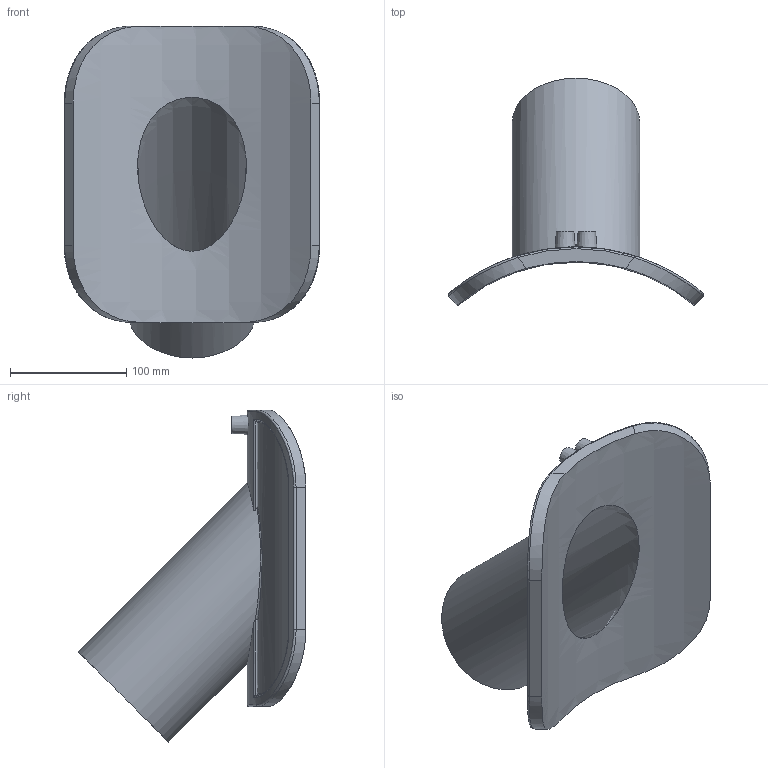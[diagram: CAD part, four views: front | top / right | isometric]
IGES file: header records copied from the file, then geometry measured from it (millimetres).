
Global section: file name: 4758A4250110.ipt; native system: Autodesk Inventor 2015; preprocessor: unknown; author: Кирилл,,11,0; organization: 20170830.202409; date: 20171106.093503; units: millimetre
Bounding box: 219.69 x 195.76 x 285.5 mm (x, y, z)
Volume: 903903.3 mm3; surface area: 209134.4 mm2
Topology: 1 solids, 1 shells, 71 faces, 166 edges, 104 vertices
Faces by surface type: revolution 24, cylinder 18, bspline 14, plane 13, cone 2
Full cylindrical faces by diameter (mm): 4 x2, 110 x1
